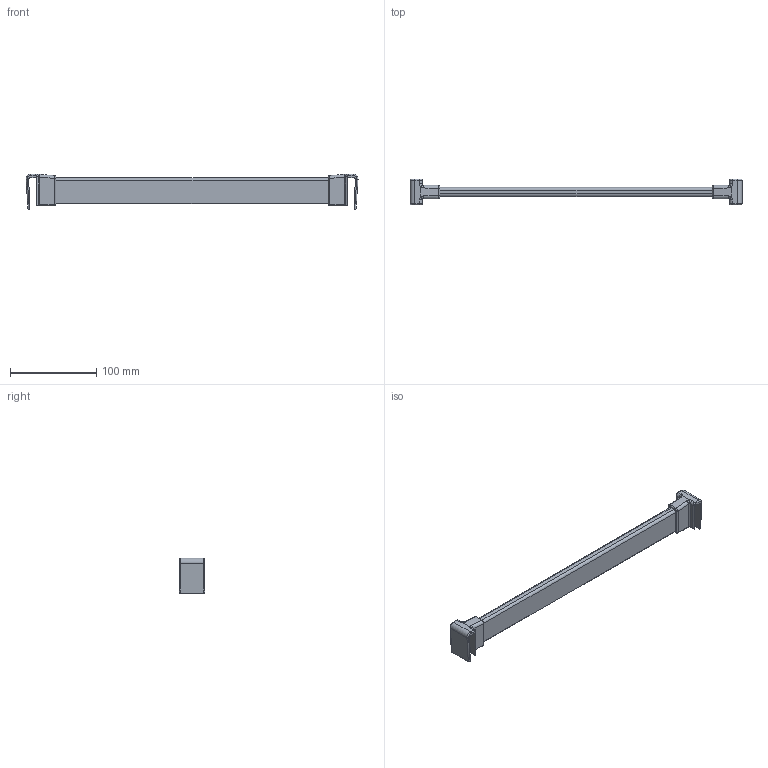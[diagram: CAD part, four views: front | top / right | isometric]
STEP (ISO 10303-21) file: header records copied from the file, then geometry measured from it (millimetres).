
FILE_DESCRIPTION (( 'STEP AP214' ), '1' );
FILE_NAME ('_Querreling_KAB-450_KS-19_P602_Glashalter.step', '2010-08-26T14:58:44', ( 'grass' ), ( '' ), 'SwSTEP 2.0', 'SolidWorks 2009', '' );
FILE_SCHEMA (( 'AUTOMOTIVE_DESIGN' ));
Length unit declared in the file: millimetre
Products named in the file (1): _Querreling_KAB-450_KS-19_P602_Glashalter
Bounding box: 384.78 x 30 x 41.5 mm (x, y, z)
Volume: 132625.3 mm3; surface area: 38378.9 mm2
Topology: 1 solids, 1 shells, 124 faces, 300 edges, 176 vertices
Faces by surface type: cylinder 58, plane 34, torus 16, bspline 12, sphere 4
Entity records: 5090 total; most frequent: CARTESIAN_POINT 2269, ORIENTED_EDGE 592, DIRECTION 590, EDGE_CURVE 296, AXIS2_PLACEMENT_3D 225, VERTEX_POINT 176, LINE 140, VECTOR 140
